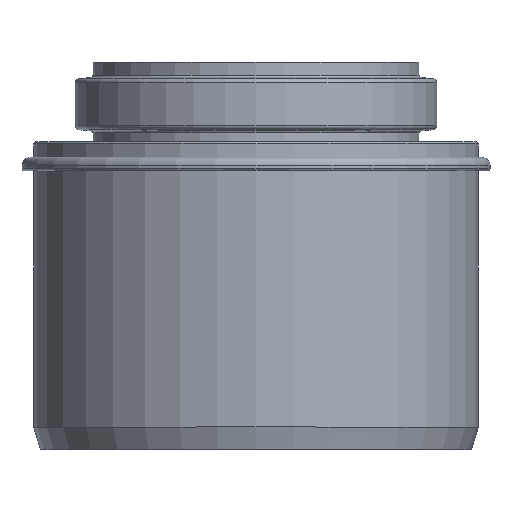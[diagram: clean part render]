
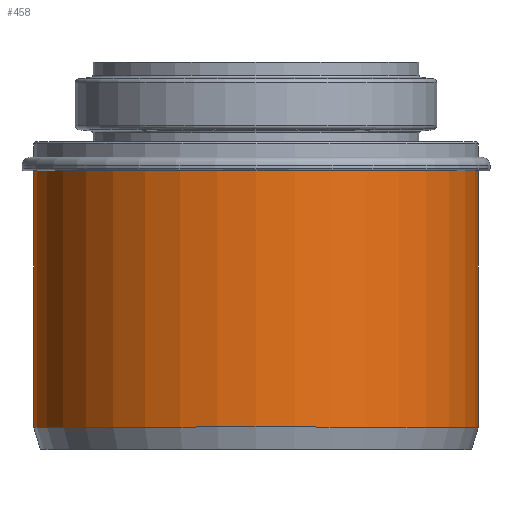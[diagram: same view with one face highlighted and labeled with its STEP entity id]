
A CAD part, top view. The second image highlights one B-rep face of the part: STEP entity #458.
In plain terms, the highlighted cylindrical face has radius 55.1 mm (diameter 110.2 mm), a full revolution.
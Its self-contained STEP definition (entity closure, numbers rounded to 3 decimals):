
#43=CYLINDRICAL_SURFACE($,#534,55.1);
#76=FACE_BOUND($,#173,.T.);
#109=FACE_OUTER_BOUND($,#172,.T.);
#172=EDGE_LOOP($,(#374));
#173=EDGE_LOOP($,(#375));
#179=CIRCLE($,#469,55.1);
#212=CIRCLE($,#532,55.1);
#217=VERTEX_POINT($,#698);
#250=VERTEX_POINT($,#798);
#255=EDGE_CURVE($,#217,#217,#179,.T.);
#292=EDGE_CURVE($,#250,#250,#212,.T.);
#374=ORIENTED_EDGE($,*,*,#255,.F.);
#375=ORIENTED_EDGE($,*,*,#292,.F.);
#458=ADVANCED_FACE($,(#109,#76),#43,.T.);
#469=AXIS2_PLACEMENT_3D($,#699,#550,#551);
#532=AXIS2_PLACEMENT_3D($,#799,#680,#681);
#534=AXIS2_PLACEMENT_3D($,#802,#684,#685);
#550=DIRECTION('center_axis',(0.,1.,0.));
#551=DIRECTION('ref_axis',(1.,0.,0.));
#680=DIRECTION('center_axis',(0.,-1.,0.));
#681=DIRECTION('ref_axis',(1.,0.,0.));
#684=DIRECTION('center_axis',(0.,1.,0.));
#685=DIRECTION('ref_axis',(1.,0.,0.));
#698=CARTESIAN_POINT('',(-55.1,69.1,0.));
#699=CARTESIAN_POINT('Origin',(0.,69.1,0.));
#798=CARTESIAN_POINT('',(-55.1,5.5,0.));
#799=CARTESIAN_POINT('Origin',(0.,5.5,0.));
#802=CARTESIAN_POINT('Origin',(0.,0.,0.));
